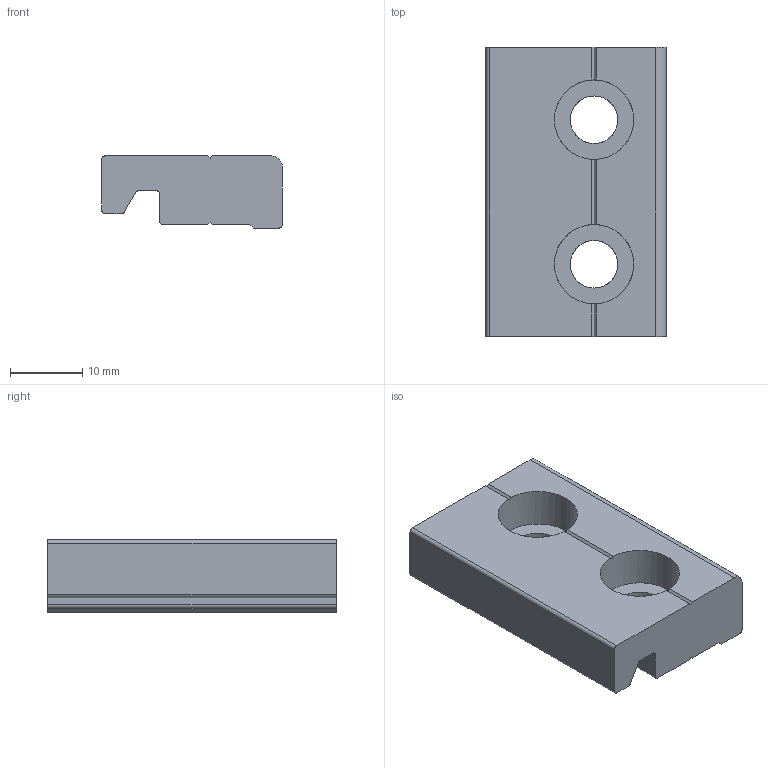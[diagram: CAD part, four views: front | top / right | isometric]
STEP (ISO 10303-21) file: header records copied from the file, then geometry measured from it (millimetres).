
FILE_DESCRIPTION(('STEP AP214'),'1');
FILE_NAME('SL3H-L40.stp','2017-07-26T07:23:38',(' '),(' '),'Spatial InterOp 3D',' ',' ');
FILE_SCHEMA(('automotive_design'));
Length unit declared in the file: millimetre
Products named in the file (1): SL3H-L40
Bounding box: 25 x 40 x 10 mm (x, y, z)
Volume: 7234.4 mm3; surface area: 3764.3 mm2
Topology: 1 solids, 1 shells, 40 faces, 116 edges, 76 vertices
Faces by surface type: plane 28, cylinder 12
Full cylindrical faces by diameter (mm): 6.6 x2, 11 x2
Entity records: 1656 total; most frequent: DIRECTION 238, CARTESIAN_POINT 229, ORIENTED_EDGE 224, EDGE_CURVE 112, AXIS2_PLACEMENT_3D 85, VERTEX_POINT 76, LINE 68, VECTOR 68
